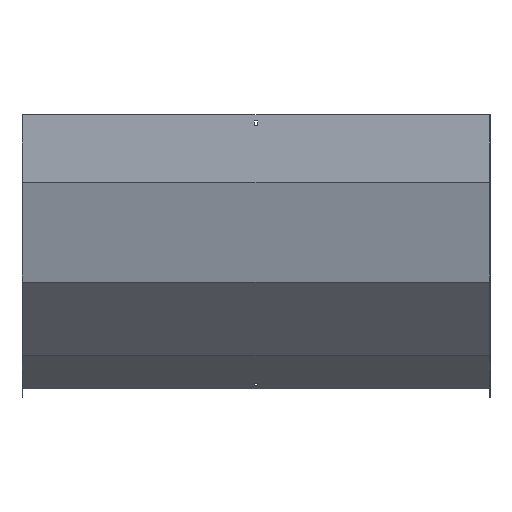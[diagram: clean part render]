
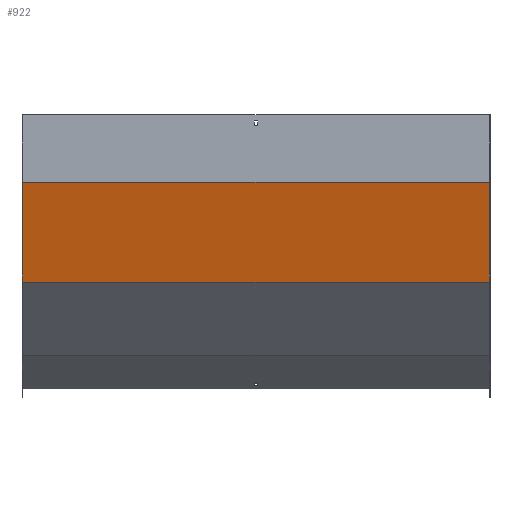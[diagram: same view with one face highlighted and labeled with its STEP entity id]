
A CAD part, front view. The second image highlights one B-rep face of the part: STEP entity #922.
In plain terms, the highlighted planar face has unit normal (0, -0.966, -0.259).
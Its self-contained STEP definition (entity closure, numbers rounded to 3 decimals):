
#7 = DIRECTION ( 'NONE',  ( -1., 0., 0. ) ) ;
#10 = FACE_OUTER_BOUND ( 'NONE', #579, .T. ) ;
#27 = EDGE_CURVE ( 'NONE', #857, #444, #291, .T. ) ;
#54 = LINE ( 'NONE', #960, #784 ) ;
#100 = VERTEX_POINT ( 'NONE', #485 ) ;
#121 = DIRECTION ( 'NONE',  ( -1., 0., 0. ) ) ;
#122 = ORIENTED_EDGE ( 'NONE', *, *, #691, .T. ) ;
#167 = ORIENTED_EDGE ( 'NONE', *, *, #27, .F. ) ;
#291 = LINE ( 'NONE', #898, #662 ) ;
#317 = EDGE_CURVE ( 'NONE', #100, #565, #948, .T. ) ;
#327 = PLANE ( 'NONE',  #895 ) ;
#342 = ORIENTED_EDGE ( 'NONE', *, *, #837, .F. ) ;
#424 = CARTESIAN_POINT ( 'NONE',  ( 450., -1.5, -130.197 ) ) ;
#444 = VERTEX_POINT ( 'NONE', #467 ) ;
#452 = LINE ( 'NONE', #904, #513 ) ;
#467 = CARTESIAN_POINT ( 'NONE',  ( 450., 50.16, -322.996 ) ) ;
#479 = ORIENTED_EDGE ( 'NONE', *, *, #317, .T. ) ;
#482 = CARTESIAN_POINT ( 'NONE',  ( -450., 50.16, -322.996 ) ) ;
#485 = CARTESIAN_POINT ( 'NONE',  ( -450., -1.5, -130.197 ) ) ;
#513 = VECTOR ( 'NONE', #7, 1000. ) ;
#565 = VERTEX_POINT ( 'NONE', #482 ) ;
#579 = EDGE_LOOP ( 'NONE', ( #479, #342, #167, #122 ) ) ;
#583 = VECTOR ( 'NONE', #865, 1000. ) ;
#596 = DIRECTION ( 'NONE',  ( 0., 0.966, 0.259 ) ) ;
#662 = VECTOR ( 'NONE', #751, 1000. ) ;
#691 = EDGE_CURVE ( 'NONE', #857, #100, #452, .T. ) ;
#716 = CARTESIAN_POINT ( 'NONE',  ( -450., -33.949, -9.097 ) ) ;
#742 = CARTESIAN_POINT ( 'NONE',  ( 451.5, -1.449, -130.388 ) ) ;
#751 = DIRECTION ( 'NONE',  ( 0., 0.259, -0.966 ) ) ;
#784 = VECTOR ( 'NONE', #121, 1000. ) ;
#837 = EDGE_CURVE ( 'NONE', #444, #565, #54, .T. ) ;
#857 = VERTEX_POINT ( 'NONE', #424 ) ;
#865 = DIRECTION ( 'NONE',  ( 0., 0.259, -0.966 ) ) ;
#895 = AXIS2_PLACEMENT_3D ( 'NONE', #742, #596, #908 ) ;
#898 = CARTESIAN_POINT ( 'NONE',  ( 450., -33.949, -9.097 ) ) ;
#904 = CARTESIAN_POINT ( 'NONE',  ( 451.5, -1.5, -130.197 ) ) ;
#908 = DIRECTION ( 'NONE',  ( 0., -0.259, 0.966 ) ) ;
#922 = ADVANCED_FACE ( 'NONE', ( #10 ), #327, .F. ) ;
#948 = LINE ( 'NONE', #716, #583 ) ;
#960 = CARTESIAN_POINT ( 'NONE',  ( 451.5, 50.16, -322.996 ) ) ;
